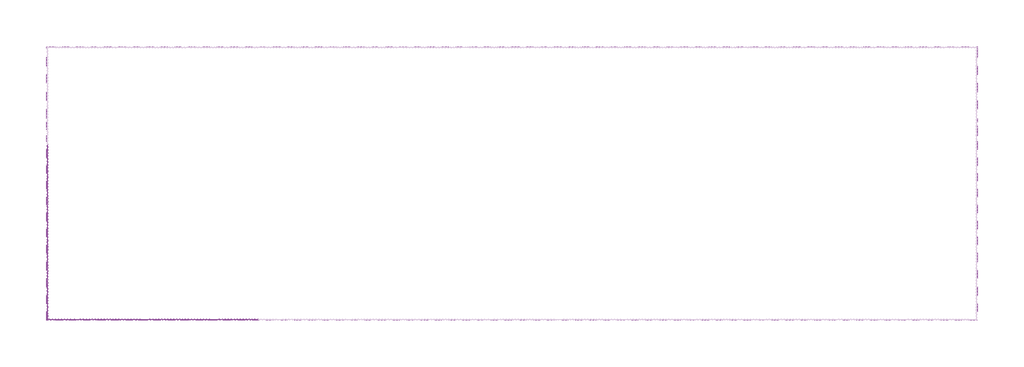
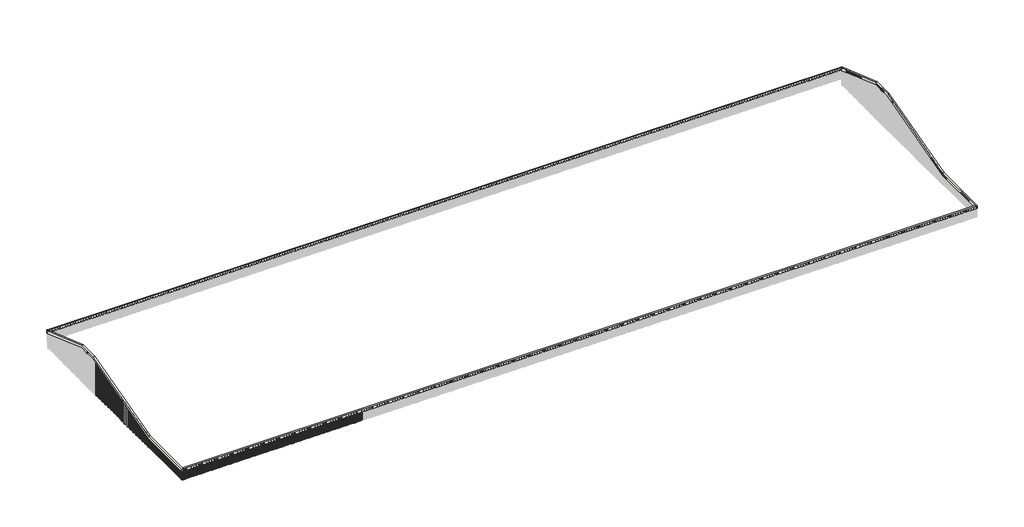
# One storey, part 1 of 6: 128 proxies, 1 slab.
"""IFC4 building model written with IfcOpenShell, lengths in millimetres."""

from ifc_helpers import new_model, si_unit, origin, place, context, project, spatial, transform, mapped, element, save
from components import generic_models_7553901d, generic_models_eddb28b0, generic_models_b851e550, generic_models_f981eec5, generic_models_fa2cd2e8, generic_models_5c6d3e61, generic_models_5d25678b, generic_models_d380ba2e, generic_models_831c492c, generic_models_77be9fe8, generic_models_16d24312, generic_models_3141a809, generic_models_ca3dce07, generic_models_dd665d03, generic_models_896a7e0f, generic_models_769bab11, generic_models_6a52f8d3, generic_models_cdec1266, generic_models_580ca2bd, slab_dfe32eb2

model = new_model("IFC4")

# Units and contexts
model_context = context("Model", 3, world=origin())
ifc_project = project(units=[si_unit("LENGTHUNIT", "METRE", prefix="MILLI")], contexts=[model_context])

# Site, building, storey
site = spatial("IfcSite", under=ifc_project)
building = spatial("IfcBuilding", under=site)
storey = spatial("IfcBuildingStorey", under=building, Name="矢板", Elevation=0.0)

# Proxies
placement = place(None, origin())
generic_models_shape = generic_models_7553901d(model_context)
element("IfcBuildingElementProxy", 1, Name="鋼矢板10H型 : 鋼矢板10H型", ObjectType="鋼矢板10H型 : 鋼矢板10H型", at=placement, inside=storey, context=model_context, shape_type="MappedRepresentation", body=[
    mapped(generic_models_shape, transform((-128208.0, -33049.0, 5850.0), x_axis=(0.0, 1.0, 0.0), y_axis=(-1.0, 0.0, 0.0), z_axis=(0.0, 0.0, 1.0))),
])
element("IfcBuildingElementProxy", 2, Name="鋼矢板10H型 : 鋼矢板10H型", ObjectType="鋼矢板10H型 : 鋼矢板10H型", at=placement, inside=storey, context=model_context, shape_type="MappedRepresentation", body=[
    mapped(generic_models_shape, transform((-128208.0, -33949.0, 5850.0), x_axis=(0.0, 1.0, 0.0), y_axis=(-1.0, 0.0, 0.0), z_axis=(0.0, 0.0, 1.0))),
])
element("IfcBuildingElementProxy", 3, Name="鋼矢板10H型 : 鋼矢板10H型", ObjectType="鋼矢板10H型 : 鋼矢板10H型", at=placement, inside=storey, context=model_context, shape_type="MappedRepresentation", body=[
    mapped(generic_models_shape, transform((-128208.0, -34849.0, 5850.0), x_axis=(0.0, 1.0, 0.0), y_axis=(-1.0, 0.0, 0.0), z_axis=(0.0, 0.0, 1.0))),
])
element("IfcBuildingElementProxy", 4, Name="鋼矢板10H型 : 鋼矢板10H型", ObjectType="鋼矢板10H型 : 鋼矢板10H型", at=placement, inside=storey, context=model_context, shape_type="MappedRepresentation", body=[
    mapped(generic_models_shape, transform((-128208.0, -35749.0, 5850.0), x_axis=(0.0, 1.0, 0.0), y_axis=(-1.0, 0.0, 0.0), z_axis=(0.0, 0.0, 1.0))),
])
element("IfcBuildingElementProxy", 5, Name="鋼矢板10H型 : 鋼矢板10H型", ObjectType="鋼矢板10H型 : 鋼矢板10H型", at=placement, inside=storey, context=model_context, shape_type="MappedRepresentation", body=[
    mapped(generic_models_shape, transform((-128208.0, -36649.0, 5850.0), x_axis=(0.0, 1.0, 0.0), y_axis=(-1.0, 0.0, 0.0), z_axis=(0.0, 0.0, 1.0))),
])
element("IfcBuildingElementProxy", 6, Name="鋼矢板10H型 : 鋼矢板10H型", ObjectType="鋼矢板10H型 : 鋼矢板10H型", at=placement, inside=storey, context=model_context, shape_type="MappedRepresentation", body=[
    mapped(generic_models_shape, transform((-128208.0, -37549.0, 5850.0), x_axis=(0.0, 1.0, 0.0), y_axis=(-1.0, 0.0, 0.0), z_axis=(0.0, 0.0, 1.0))),
])
element("IfcBuildingElementProxy", 7, Name="鋼矢板10H型 : 鋼矢板10H型", ObjectType="鋼矢板10H型 : 鋼矢板10H型", at=placement, inside=storey, context=model_context, shape_type="MappedRepresentation", body=[
    mapped(generic_models_shape, transform((-128208.0, -38449.0, 5850.0), x_axis=(0.0, 1.0, 0.0), y_axis=(-1.0, 0.0, 0.0), z_axis=(0.0, 0.0, 1.0))),
])
element("IfcBuildingElementProxy", 8, Name="鋼矢板10H型 : 鋼矢板10H型", ObjectType="鋼矢板10H型 : 鋼矢板10H型", at=placement, inside=storey, context=model_context, shape_type="MappedRepresentation", body=[
    mapped(generic_models_shape, transform((-128208.0, -39349.0, 5850.0), x_axis=(0.0, 1.0, 0.0), y_axis=(-1.0, 0.0, 0.0), z_axis=(0.0, 0.0, 1.0))),
])
element("IfcBuildingElementProxy", 9, Name="鋼矢板10H型 : 鋼矢板10H型", ObjectType="鋼矢板10H型 : 鋼矢板10H型", at=placement, inside=storey, context=model_context, shape_type="MappedRepresentation", body=[
    mapped(generic_models_shape, transform((-128208.0, -40249.0, 5850.0), x_axis=(0.0, 1.0, 0.0), y_axis=(-1.0, 0.0, 0.0), z_axis=(0.0, 0.0, 1.0))),
])
element("IfcBuildingElementProxy", 10, Name="鋼矢板10H型 : 鋼矢板10H型", ObjectType="鋼矢板10H型 : 鋼矢板10H型", at=placement, inside=storey, context=model_context, shape_type="MappedRepresentation", body=[
    mapped(generic_models_shape, transform((-128208.0, -41149.0, 5850.0), x_axis=(0.0, 1.0, 0.0), y_axis=(-1.0, 0.0, 0.0), z_axis=(0.0, 0.0, 1.0))),
])
element("IfcBuildingElementProxy", 11, Name="鋼矢板10H型 : 鋼矢板10H型", ObjectType="鋼矢板10H型 : 鋼矢板10H型", at=placement, inside=storey, context=model_context, shape_type="MappedRepresentation", body=[
    mapped(generic_models_shape, transform((-128208.0, -42049.0, 5850.0), x_axis=(0.0, 1.0, 0.0), y_axis=(-1.0, 0.0, 0.0), z_axis=(0.0, 0.0, 1.0))),
])
element("IfcBuildingElementProxy", 12, Name="鋼矢板10H型 : 鋼矢板10H型", ObjectType="鋼矢板10H型 : 鋼矢板10H型", at=placement, inside=storey, context=model_context, shape_type="MappedRepresentation", body=[
    mapped(generic_models_shape, transform((-128208.0, -42949.0, 5850.0), x_axis=(0.0, 1.0, 0.0), y_axis=(-1.0, 0.0, 0.0), z_axis=(0.0, 0.0, 1.0))),
])
element("IfcBuildingElementProxy", 13, Name="鋼矢板10H型 : 鋼矢板10H型", ObjectType="鋼矢板10H型 : 鋼矢板10H型", at=placement, inside=storey, context=model_context, shape_type="MappedRepresentation", body=[
    mapped(generic_models_shape, transform((-128208.0, -43849.0, 5850.0), x_axis=(0.0, 1.0, 0.0), y_axis=(-1.0, 0.0, 0.0), z_axis=(0.0, 0.0, 1.0))),
])
element("IfcBuildingElementProxy", 14, Name="鋼矢板10H型 : 鋼矢板10H型", ObjectType="鋼矢板10H型 : 鋼矢板10H型", at=placement, inside=storey, context=model_context, shape_type="MappedRepresentation", body=[
    mapped(generic_models_shape, transform((-128208.0, -44749.0, 5850.0), x_axis=(0.0, 1.0, 0.0), y_axis=(-1.0, 0.0, 0.0), z_axis=(0.0, 0.0, 1.0))),
])
element("IfcBuildingElementProxy", 15, Name="鋼矢板10H型 : 鋼矢板10H型", ObjectType="鋼矢板10H型 : 鋼矢板10H型", at=placement, inside=storey, context=model_context, shape_type="MappedRepresentation", body=[
    mapped(generic_models_shape, transform((-128208.0, -45649.0, 5850.0), x_axis=(0.0, 1.0, 0.0), y_axis=(-1.0, 0.0, 0.0), z_axis=(0.0, 0.0, 1.0))),
])
element("IfcBuildingElementProxy", 16, Name="鋼矢板10H型 : 鋼矢板10H型", ObjectType="鋼矢板10H型 : 鋼矢板10H型", at=placement, inside=storey, context=model_context, shape_type="MappedRepresentation", body=[
    mapped(generic_models_shape, transform((-128208.0, -46549.0, 5850.0), x_axis=(0.0, 1.0, 0.0), y_axis=(-1.0, 0.0, 0.0), z_axis=(0.0, 0.0, 1.0))),
])
element("IfcBuildingElementProxy", 17, Name="鋼矢板10H型 : 鋼矢板10H型", ObjectType="鋼矢板10H型 : 鋼矢板10H型", at=placement, inside=storey, context=model_context, shape_type="MappedRepresentation", body=[
    mapped(generic_models_shape, transform((-128208.0, -47449.0, 5850.0), x_axis=(0.0, 1.0, 0.0), y_axis=(-1.0, 0.0, 0.0), z_axis=(0.0, 0.0, 1.0))),
])
element("IfcBuildingElementProxy", 18, Name="鋼矢板10H型 : 鋼矢板10H型", ObjectType="鋼矢板10H型 : 鋼矢板10H型", at=placement, inside=storey, context=model_context, shape_type="MappedRepresentation", body=[
    mapped(generic_models_shape, transform((-128208.0, -48349.0, 5850.0), x_axis=(0.0, 1.0, 0.0), y_axis=(-1.0, 0.0, 0.0), z_axis=(0.0, 0.0, 1.0))),
])
element("IfcBuildingElementProxy", 19, Name="鋼矢板10H型 : 鋼矢板10H型", ObjectType="鋼矢板10H型 : 鋼矢板10H型", at=placement, inside=storey, context=model_context, shape_type="MappedRepresentation", body=[
    mapped(generic_models_shape, transform((-128208.0, -49249.0, 5850.0), x_axis=(0.0, 1.0, 0.0), y_axis=(-1.0, 0.0, 0.0), z_axis=(0.0, 0.0, 1.0))),
])
element("IfcBuildingElementProxy", 20, Name="鋼矢板10H型 : 鋼矢板10H型", ObjectType="鋼矢板10H型 : 鋼矢板10H型", at=placement, inside=storey, context=model_context, shape_type="MappedRepresentation", body=[
    mapped(generic_models_shape, transform((-128208.0, -50149.0, 5850.0), x_axis=(0.0, 1.0, 0.0), y_axis=(-1.0, 0.0, 0.0), z_axis=(0.0, 0.0, 1.0))),
])
element("IfcBuildingElementProxy", 21, Name="鋼矢板10H型 : 鋼矢板10H型", ObjectType="鋼矢板10H型 : 鋼矢板10H型", at=placement, inside=storey, context=model_context, shape_type="MappedRepresentation", body=[
    mapped(generic_models_shape, transform((-128208.0, -51049.0, 5850.0), x_axis=(0.0, 1.0, 0.0), y_axis=(-1.0, 0.0, 0.0), z_axis=(0.0, 0.0, 1.0))),
])
element("IfcBuildingElementProxy", 22, Name="鋼矢板10H型 : 鋼矢板10H型", ObjectType="鋼矢板10H型 : 鋼矢板10H型", at=placement, inside=storey, context=model_context, shape_type="MappedRepresentation", body=[
    mapped(generic_models_shape, transform((-128208.0, -51949.0, 5850.0), x_axis=(0.0, 1.0, 0.0), y_axis=(-1.0, 0.0, 0.0), z_axis=(0.0, 0.0, 1.0))),
])
element("IfcBuildingElementProxy", 23, Name="鋼矢板10H型 : 鋼矢板10H型", ObjectType="鋼矢板10H型 : 鋼矢板10H型", at=placement, inside=storey, context=model_context, shape_type="MappedRepresentation", body=[
    mapped(generic_models_shape, transform((-65897.5, -52500.0, 5850.0), x_axis=(-1.0, 0.0, 0.0), y_axis=(0.0, -1.0, 0.0), z_axis=(0.0, 0.0, 1.0))),
])
element("IfcBuildingElementProxy", 24, Name="鋼矢板10H型 : 鋼矢板10H型", ObjectType="鋼矢板10H型 : 鋼矢板10H型", at=placement, inside=storey, context=model_context, shape_type="MappedRepresentation", body=[
    mapped(generic_models_shape, transform((-66797.5, -52500.0, 5850.0), x_axis=(-1.0, 0.0, 0.0), y_axis=(0.0, -1.0, 0.0), z_axis=(0.0, 0.0, 1.0))),
])
element("IfcBuildingElementProxy", 25, Name="鋼矢板10H型 : 鋼矢板10H型", ObjectType="鋼矢板10H型 : 鋼矢板10H型", at=placement, inside=storey, context=model_context, shape_type="MappedRepresentation", body=[
    mapped(generic_models_shape, transform((-67697.5, -52500.0, 5850.0), x_axis=(-1.0, 0.0, 0.0), y_axis=(0.0, -1.0, 0.0), z_axis=(0.0, 0.0, 1.0))),
])
element("IfcBuildingElementProxy", 26, Name="鋼矢板10H型 : 鋼矢板10H型", ObjectType="鋼矢板10H型 : 鋼矢板10H型", at=placement, inside=storey, context=model_context, shape_type="MappedRepresentation", body=[
    mapped(generic_models_shape, transform((-68597.5, -52500.0, 5850.0), x_axis=(-1.0, 0.0, 0.0), y_axis=(0.0, -1.0, 0.0), z_axis=(0.0, 0.0, 1.0))),
])
element("IfcBuildingElementProxy", 27, Name="鋼矢板10H型 : 鋼矢板10H型", ObjectType="鋼矢板10H型 : 鋼矢板10H型", at=placement, inside=storey, context=model_context, shape_type="MappedRepresentation", body=[
    mapped(generic_models_shape, transform((-69497.5, -52500.0, 5850.0), x_axis=(-1.0, 0.0, 0.0), y_axis=(0.0, -1.0, 0.0), z_axis=(0.0, 0.0, 1.0))),
])
element("IfcBuildingElementProxy", 28, Name="鋼矢板10H型 : 鋼矢板10H型", ObjectType="鋼矢板10H型 : 鋼矢板10H型", at=placement, inside=storey, context=model_context, shape_type="MappedRepresentation", body=[
    mapped(generic_models_shape, transform((-70397.5, -52500.0, 5850.0), x_axis=(-1.0, 0.0, 0.0), y_axis=(0.0, -1.0, 0.0), z_axis=(0.0, 0.0, 1.0))),
])
element("IfcBuildingElementProxy", 29, Name="鋼矢板10H型 : 鋼矢板10H型", ObjectType="鋼矢板10H型 : 鋼矢板10H型", at=placement, inside=storey, context=model_context, shape_type="MappedRepresentation", body=[
    mapped(generic_models_shape, transform((-71297.5, -52500.0, 5850.0), x_axis=(-1.0, 0.0, 0.0), y_axis=(0.0, -1.0, 0.0), z_axis=(0.0, 0.0, 1.0))),
])
element("IfcBuildingElementProxy", 30, Name="鋼矢板10H型 : 鋼矢板10H型", ObjectType="鋼矢板10H型 : 鋼矢板10H型", at=placement, inside=storey, context=model_context, shape_type="MappedRepresentation", body=[
    mapped(generic_models_shape, transform((-72197.5, -52500.0, 5850.0), x_axis=(-1.0, 0.0, 0.0), y_axis=(0.0, -1.0, 0.0), z_axis=(0.0, 0.0, 1.0))),
])
element("IfcBuildingElementProxy", 31, Name="鋼矢板10H型 : 鋼矢板10H型", ObjectType="鋼矢板10H型 : 鋼矢板10H型", at=placement, inside=storey, context=model_context, shape_type="MappedRepresentation", body=[
    mapped(generic_models_shape, transform((-73097.5, -52500.0, 5850.0), x_axis=(-1.0, 0.0, 0.0), y_axis=(0.0, -1.0, 0.0), z_axis=(0.0, 0.0, 1.0))),
])
element("IfcBuildingElementProxy", 32, Name="鋼矢板10H型 : 鋼矢板10H型", ObjectType="鋼矢板10H型 : 鋼矢板10H型", at=placement, inside=storey, context=model_context, shape_type="MappedRepresentation", body=[
    mapped(generic_models_shape, transform((-73997.5, -52500.0, 5850.0), x_axis=(-1.0, 0.0, 0.0), y_axis=(0.0, -1.0, 0.0), z_axis=(0.0, 0.0, 1.0))),
])
element("IfcBuildingElementProxy", 33, Name="鋼矢板10H型 : 鋼矢板10H型", ObjectType="鋼矢板10H型 : 鋼矢板10H型", at=placement, inside=storey, context=model_context, shape_type="MappedRepresentation", body=[
    mapped(generic_models_shape, transform((-74897.5, -52500.0, 5850.0), x_axis=(-1.0, 0.0, 0.0), y_axis=(0.0, -1.0, 0.0), z_axis=(0.0, 0.0, 1.0))),
])
element("IfcBuildingElementProxy", 34, Name="鋼矢板10H型 : 鋼矢板10H型", ObjectType="鋼矢板10H型 : 鋼矢板10H型", at=placement, inside=storey, context=model_context, shape_type="MappedRepresentation", body=[
    mapped(generic_models_shape, transform((-75797.5, -52500.0, 5850.0), x_axis=(-1.0, 0.0, 0.0), y_axis=(0.0, -1.0, 0.0), z_axis=(0.0, 0.0, 1.0))),
])
element("IfcBuildingElementProxy", 35, Name="鋼矢板10H型 : 鋼矢板10H型", ObjectType="鋼矢板10H型 : 鋼矢板10H型", at=placement, inside=storey, context=model_context, shape_type="MappedRepresentation", body=[
    mapped(generic_models_shape, transform((-76697.5, -52500.0, 5850.0), x_axis=(-1.0, 0.0, 0.0), y_axis=(0.0, -1.0, 0.0), z_axis=(0.0, 0.0, 1.0))),
])
element("IfcBuildingElementProxy", 36, Name="鋼矢板10H型 : 鋼矢板10H型", ObjectType="鋼矢板10H型 : 鋼矢板10H型", at=placement, inside=storey, context=model_context, shape_type="MappedRepresentation", body=[
    mapped(generic_models_shape, transform((-77597.5, -52500.0, 5850.0), x_axis=(-1.0, 0.0, 0.0), y_axis=(0.0, -1.0, 0.0), z_axis=(0.0, 0.0, 1.0))),
])
element("IfcBuildingElementProxy", 37, Name="鋼矢板10H型 : 鋼矢板10H型", ObjectType="鋼矢板10H型 : 鋼矢板10H型", at=placement, inside=storey, context=model_context, shape_type="MappedRepresentation", body=[
    mapped(generic_models_shape, transform((-78497.5, -52500.0, 5850.0), x_axis=(-1.0, 0.0, 0.0), y_axis=(0.0, -1.0, 0.0), z_axis=(0.0, 0.0, 1.0))),
])
element("IfcBuildingElementProxy", 38, Name="鋼矢板10H型 : 鋼矢板10H型", ObjectType="鋼矢板10H型 : 鋼矢板10H型", at=placement, inside=storey, context=model_context, shape_type="MappedRepresentation", body=[
    mapped(generic_models_shape, transform((-79397.5, -52500.0, 5850.0), x_axis=(-1.0, 0.0, 0.0), y_axis=(0.0, -1.0, 0.0), z_axis=(0.0, 0.0, 1.0))),
])
element("IfcBuildingElementProxy", 39, Name="鋼矢板10H型 : 鋼矢板10H型", ObjectType="鋼矢板10H型 : 鋼矢板10H型", at=placement, inside=storey, context=model_context, shape_type="MappedRepresentation", body=[
    mapped(generic_models_shape, transform((-80297.5, -52500.0, 5850.0), x_axis=(-1.0, 0.0, 0.0), y_axis=(0.0, -1.0, 0.0), z_axis=(0.0, 0.0, 1.0))),
])
element("IfcBuildingElementProxy", 40, Name="鋼矢板10H型 : 鋼矢板10H型", ObjectType="鋼矢板10H型 : 鋼矢板10H型", at=placement, inside=storey, context=model_context, shape_type="MappedRepresentation", body=[
    mapped(generic_models_shape, transform((-81197.5, -52500.0, 5850.0), x_axis=(-1.0, 0.0, 0.0), y_axis=(0.0, -1.0, 0.0), z_axis=(0.0, 0.0, 1.0))),
])
element("IfcBuildingElementProxy", 41, Name="鋼矢板10H型 : 鋼矢板10H型", ObjectType="鋼矢板10H型 : 鋼矢板10H型", at=placement, inside=storey, context=model_context, shape_type="MappedRepresentation", body=[
    mapped(generic_models_shape, transform((-82097.5, -52500.0, 5850.0), x_axis=(-1.0, 0.0, 0.0), y_axis=(0.0, -1.0, 0.0), z_axis=(0.0, 0.0, 1.0))),
])
element("IfcBuildingElementProxy", 42, Name="鋼矢板10H型 : 鋼矢板10H型", ObjectType="鋼矢板10H型 : 鋼矢板10H型", at=placement, inside=storey, context=model_context, shape_type="MappedRepresentation", body=[
    mapped(generic_models_shape, transform((-82997.5, -52500.0, 5850.0), x_axis=(-1.0, 0.0, 0.0), y_axis=(0.0, -1.0, 0.0), z_axis=(0.0, 0.0, 1.0))),
])
element("IfcBuildingElementProxy", 43, Name="鋼矢板10H型 : 鋼矢板10H型", ObjectType="鋼矢板10H型 : 鋼矢板10H型", at=placement, inside=storey, context=model_context, shape_type="MappedRepresentation", body=[
    mapped(generic_models_shape, transform((-83897.5, -52500.0, 5850.0), x_axis=(-1.0, 0.0, 0.0), y_axis=(0.0, -1.0, 0.0), z_axis=(0.0, 0.0, 1.0))),
])
element("IfcBuildingElementProxy", 44, Name="鋼矢板10H型 : 鋼矢板10H型", ObjectType="鋼矢板10H型 : 鋼矢板10H型", at=placement, inside=storey, context=model_context, shape_type="MappedRepresentation", body=[
    mapped(generic_models_shape, transform((-84797.5, -52500.0, 5850.0), x_axis=(-1.0, 0.0, 0.0), y_axis=(0.0, -1.0, 0.0), z_axis=(0.0, 0.0, 1.0))),
])
element("IfcBuildingElementProxy", 45, Name="鋼矢板10H型 : 鋼矢板10H型", ObjectType="鋼矢板10H型 : 鋼矢板10H型", at=placement, inside=storey, context=model_context, shape_type="MappedRepresentation", body=[
    mapped(generic_models_shape, transform((-85697.5, -52500.0, 5850.0), x_axis=(-1.0, 0.0, 0.0), y_axis=(0.0, -1.0, 0.0), z_axis=(0.0, 0.0, 1.0))),
])
element("IfcBuildingElementProxy", 46, Name="鋼矢板10H型 : 鋼矢板10H型", ObjectType="鋼矢板10H型 : 鋼矢板10H型", at=placement, inside=storey, context=model_context, shape_type="MappedRepresentation", body=[
    mapped(generic_models_shape, transform((-86597.5, -52500.0, 5850.0), x_axis=(-1.0, 0.0, 0.0), y_axis=(0.0, -1.0, 0.0), z_axis=(0.0, 0.0, 1.0))),
])
element("IfcBuildingElementProxy", 47, Name="鋼矢板10H型 : 鋼矢板10H型", ObjectType="鋼矢板10H型 : 鋼矢板10H型", at=placement, inside=storey, context=model_context, shape_type="MappedRepresentation", body=[
    mapped(generic_models_shape, transform((-87497.5, -52500.0, 5850.0), x_axis=(-1.0, 0.0, 0.0), y_axis=(0.0, -1.0, 0.0), z_axis=(0.0, 0.0, 1.0))),
])
element("IfcBuildingElementProxy", 48, Name="鋼矢板10H型 : 鋼矢板10H型", ObjectType="鋼矢板10H型 : 鋼矢板10H型", at=placement, inside=storey, context=model_context, shape_type="MappedRepresentation", body=[
    mapped(generic_models_shape, transform((-88397.5, -52500.0, 5850.0), x_axis=(-1.0, 0.0, 0.0), y_axis=(0.0, -1.0, 0.0), z_axis=(0.0, 0.0, 1.0))),
])
element("IfcBuildingElementProxy", 49, Name="鋼矢板10H型 : 鋼矢板10H型", ObjectType="鋼矢板10H型 : 鋼矢板10H型", at=placement, inside=storey, context=model_context, shape_type="MappedRepresentation", body=[
    mapped(generic_models_shape, transform((-89297.5, -52500.0, 5850.0), x_axis=(-1.0, 0.0, 0.0), y_axis=(0.0, -1.0, 0.0), z_axis=(0.0, 0.0, 1.0))),
])
element("IfcBuildingElementProxy", 50, Name="鋼矢板10H型 : 鋼矢板10H型", ObjectType="鋼矢板10H型 : 鋼矢板10H型", at=placement, inside=storey, context=model_context, shape_type="MappedRepresentation", body=[
    mapped(generic_models_shape, transform((-90197.5, -52500.0, 5850.0), x_axis=(-1.0, 0.0, 0.0), y_axis=(0.0, -1.0, 0.0), z_axis=(0.0, 0.0, 1.0))),
])
element("IfcBuildingElementProxy", 51, Name="鋼矢板10H型 : 鋼矢板10H型", ObjectType="鋼矢板10H型 : 鋼矢板10H型", at=placement, inside=storey, context=model_context, shape_type="MappedRepresentation", body=[
    mapped(generic_models_shape, transform((-91097.5, -52500.0, 5850.0), x_axis=(-1.0, 0.0, 0.0), y_axis=(0.0, -1.0, 0.0), z_axis=(0.0, 0.0, 1.0))),
])
element("IfcBuildingElementProxy", 52, Name="鋼矢板10H型 : 鋼矢板10H型", ObjectType="鋼矢板10H型 : 鋼矢板10H型", at=placement, inside=storey, context=model_context, shape_type="MappedRepresentation", body=[
    mapped(generic_models_shape, transform((-91997.5, -52500.0, 5850.0), x_axis=(-1.0, 0.0, 0.0), y_axis=(0.0, -1.0, 0.0), z_axis=(0.0, 0.0, 1.0))),
])
element("IfcBuildingElementProxy", 53, Name="鋼矢板10H型 : 鋼矢板10H型", ObjectType="鋼矢板10H型 : 鋼矢板10H型", at=placement, inside=storey, context=model_context, shape_type="MappedRepresentation", body=[
    mapped(generic_models_shape, transform((-92897.5, -52500.0, 5850.0), x_axis=(-1.0, 0.0, 0.0), y_axis=(0.0, -1.0, 0.0), z_axis=(0.0, 0.0, 1.0))),
])
element("IfcBuildingElementProxy", 54, Name="鋼矢板10H型 : 鋼矢板10H型", ObjectType="鋼矢板10H型 : 鋼矢板10H型", at=placement, inside=storey, context=model_context, shape_type="MappedRepresentation", body=[
    mapped(generic_models_shape, transform((-93797.5, -52500.0, 5850.0), x_axis=(-1.0, 0.0, 0.0), y_axis=(0.0, -1.0, 0.0), z_axis=(0.0, 0.0, 1.0))),
])
element("IfcBuildingElementProxy", 55, Name="鋼矢板10H型 : 鋼矢板10H型", ObjectType="鋼矢板10H型 : 鋼矢板10H型", at=placement, inside=storey, context=model_context, shape_type="MappedRepresentation", body=[
    mapped(generic_models_shape, transform((-94697.5, -52500.0, 5850.0), x_axis=(-1.0, 0.0, 0.0), y_axis=(0.0, -1.0, 0.0), z_axis=(0.0, 0.0, 1.0))),
])
element("IfcBuildingElementProxy", 56, Name="鋼矢板10H型 : 鋼矢板10H型", ObjectType="鋼矢板10H型 : 鋼矢板10H型", at=placement, inside=storey, context=model_context, shape_type="MappedRepresentation", body=[
    mapped(generic_models_shape, transform((-95597.5, -52500.0, 5850.0), x_axis=(-1.0, 0.0, 0.0), y_axis=(0.0, -1.0, 0.0), z_axis=(0.0, 0.0, 1.0))),
])
element("IfcBuildingElementProxy", 57, Name="鋼矢板10H型 : 鋼矢板10H型", ObjectType="鋼矢板10H型 : 鋼矢板10H型", at=placement, inside=storey, context=model_context, shape_type="MappedRepresentation", body=[
    mapped(generic_models_shape, transform((-96497.5, -52500.0, 5850.0), x_axis=(-1.0, 0.0, 0.0), y_axis=(0.0, -1.0, 0.0), z_axis=(0.0, 0.0, 1.0))),
])
element("IfcBuildingElementProxy", 58, Name="鋼矢板10H型 : 鋼矢板10H型", ObjectType="鋼矢板10H型 : 鋼矢板10H型", at=placement, inside=storey, context=model_context, shape_type="MappedRepresentation", body=[
    mapped(generic_models_shape, transform((-97397.5, -52500.0, 5850.0), x_axis=(-1.0, 0.0, 0.0), y_axis=(0.0, -1.0, 0.0), z_axis=(0.0, 0.0, 1.0))),
])
element("IfcBuildingElementProxy", 59, Name="鋼矢板10H型 : 鋼矢板10H型", ObjectType="鋼矢板10H型 : 鋼矢板10H型", at=placement, inside=storey, context=model_context, shape_type="MappedRepresentation", body=[
    mapped(generic_models_shape, transform((-98297.5, -52500.0, 5850.0), x_axis=(-1.0, 0.0, 0.0), y_axis=(0.0, -1.0, 0.0), z_axis=(0.0, 0.0, 1.0))),
])
element("IfcBuildingElementProxy", 60, Name="鋼矢板10H型 : 鋼矢板10H型", ObjectType="鋼矢板10H型 : 鋼矢板10H型", at=placement, inside=storey, context=model_context, shape_type="MappedRepresentation", body=[
    mapped(generic_models_shape, transform((-99197.5, -52500.0, 5850.0), x_axis=(-1.0, 0.0, 0.0), y_axis=(0.0, -1.0, 0.0), z_axis=(0.0, 0.0, 1.0))),
])
element("IfcBuildingElementProxy", 61, Name="鋼矢板10H型 : 鋼矢板10H型", ObjectType="鋼矢板10H型 : 鋼矢板10H型", at=placement, inside=storey, context=model_context, shape_type="MappedRepresentation", body=[
    mapped(generic_models_shape, transform((-100097.5, -52500.0, 5850.0), x_axis=(-1.0, 0.0, 0.0), y_axis=(0.0, -1.0, 0.0), z_axis=(0.0, 0.0, 1.0))),
])
element("IfcBuildingElementProxy", 62, Name="鋼矢板10H型 : 鋼矢板10H型", ObjectType="鋼矢板10H型 : 鋼矢板10H型", at=placement, inside=storey, context=model_context, shape_type="MappedRepresentation", body=[
    mapped(generic_models_shape, transform((-100997.5, -52500.0, 5850.0), x_axis=(-1.0, 0.0, 0.0), y_axis=(0.0, -1.0, 0.0), z_axis=(0.0, 0.0, 1.0))),
])
element("IfcBuildingElementProxy", 63, Name="鋼矢板10H型 : 鋼矢板10H型", ObjectType="鋼矢板10H型 : 鋼矢板10H型", at=placement, inside=storey, context=model_context, shape_type="MappedRepresentation", body=[
    mapped(generic_models_shape, transform((-101897.5, -52500.0, 5850.0), x_axis=(-1.0, 0.0, 0.0), y_axis=(0.0, -1.0, 0.0), z_axis=(0.0, 0.0, 1.0))),
])
element("IfcBuildingElementProxy", 64, Name="鋼矢板10H型 : 鋼矢板10H型", ObjectType="鋼矢板10H型 : 鋼矢板10H型", at=placement, inside=storey, context=model_context, shape_type="MappedRepresentation", body=[
    mapped(generic_models_shape, transform((-102797.5, -52500.0, 5850.0), x_axis=(-1.0, 0.0, 0.0), y_axis=(0.0, -1.0, 0.0), z_axis=(0.0, 0.0, 1.0))),
])
element("IfcBuildingElementProxy", 65, Name="鋼矢板10H型 : 鋼矢板10H型", ObjectType="鋼矢板10H型 : 鋼矢板10H型", at=placement, inside=storey, context=model_context, shape_type="MappedRepresentation", body=[
    mapped(generic_models_shape, transform((-103697.5, -52500.0, 5850.0), x_axis=(-1.0, 0.0, 0.0), y_axis=(0.0, -1.0, 0.0), z_axis=(0.0, 0.0, 1.0))),
])
element("IfcBuildingElementProxy", 66, Name="鋼矢板10H型 : 鋼矢板10H型", ObjectType="鋼矢板10H型 : 鋼矢板10H型", at=placement, inside=storey, context=model_context, shape_type="MappedRepresentation", body=[
    mapped(generic_models_shape, transform((-104597.5, -52500.0, 5850.0), x_axis=(-1.0, 0.0, 0.0), y_axis=(0.0, -1.0, 0.0), z_axis=(0.0, 0.0, 1.0))),
])
element("IfcBuildingElementProxy", 67, Name="鋼矢板10H型 : 鋼矢板10H型", ObjectType="鋼矢板10H型 : 鋼矢板10H型", at=placement, inside=storey, context=model_context, shape_type="MappedRepresentation", body=[
    mapped(generic_models_shape, transform((-105497.5, -52500.0, 5850.0), x_axis=(-1.0, 0.0, 0.0), y_axis=(0.0, -1.0, 0.0), z_axis=(0.0, 0.0, 1.0))),
])
element("IfcBuildingElementProxy", 68, Name="鋼矢板10H型 : 鋼矢板10H型", ObjectType="鋼矢板10H型 : 鋼矢板10H型", at=placement, inside=storey, context=model_context, shape_type="MappedRepresentation", body=[
    mapped(generic_models_shape, transform((-106397.5, -52500.0, 5850.0), x_axis=(-1.0, 0.0, 0.0), y_axis=(0.0, -1.0, 0.0), z_axis=(0.0, 0.0, 1.0))),
])
element("IfcBuildingElementProxy", 69, Name="鋼矢板10H型 : 鋼矢板10H型", ObjectType="鋼矢板10H型 : 鋼矢板10H型", at=placement, inside=storey, context=model_context, shape_type="MappedRepresentation", body=[
    mapped(generic_models_shape, transform((-107297.5, -52500.0, 5850.0), x_axis=(-1.0, 0.0, 0.0), y_axis=(0.0, -1.0, 0.0), z_axis=(0.0, 0.0, 1.0))),
])
element("IfcBuildingElementProxy", 70, Name="鋼矢板10H型 : 鋼矢板10H型", ObjectType="鋼矢板10H型 : 鋼矢板10H型", at=placement, inside=storey, context=model_context, shape_type="MappedRepresentation", body=[
    mapped(generic_models_shape, transform((-108197.5, -52500.0, 5850.0), x_axis=(-1.0, 0.0, 0.0), y_axis=(0.0, -1.0, 0.0), z_axis=(0.0, 0.0, 1.0))),
])
element("IfcBuildingElementProxy", 71, Name="鋼矢板10H型 : 鋼矢板10H型", ObjectType="鋼矢板10H型 : 鋼矢板10H型", at=placement, inside=storey, context=model_context, shape_type="MappedRepresentation", body=[
    mapped(generic_models_shape, transform((-109097.5, -52500.0, 5850.0), x_axis=(-1.0, 0.0, 0.0), y_axis=(0.0, -1.0, 0.0), z_axis=(0.0, 0.0, 1.0))),
])
element("IfcBuildingElementProxy", 72, Name="鋼矢板10H型 : 鋼矢板10H型", ObjectType="鋼矢板10H型 : 鋼矢板10H型", at=placement, inside=storey, context=model_context, shape_type="MappedRepresentation", body=[
    mapped(generic_models_shape, transform((-109997.5, -52500.0, 5850.0), x_axis=(-1.0, 0.0, 0.0), y_axis=(0.0, -1.0, 0.0), z_axis=(0.0, 0.0, 1.0))),
])
element("IfcBuildingElementProxy", 73, Name="鋼矢板10H型 : 鋼矢板10H型", ObjectType="鋼矢板10H型 : 鋼矢板10H型", at=placement, inside=storey, context=model_context, shape_type="MappedRepresentation", body=[
    mapped(generic_models_shape, transform((-110897.5, -52500.0, 5850.0), x_axis=(-1.0, 0.0, 0.0), y_axis=(0.0, -1.0, 0.0), z_axis=(0.0, 0.0, 1.0))),
])
element("IfcBuildingElementProxy", 74, Name="鋼矢板10H型 : 鋼矢板10H型", ObjectType="鋼矢板10H型 : 鋼矢板10H型", at=placement, inside=storey, context=model_context, shape_type="MappedRepresentation", body=[
    mapped(generic_models_shape, transform((-111797.5, -52500.0, 5850.0), x_axis=(-1.0, 0.0, 0.0), y_axis=(0.0, -1.0, 0.0), z_axis=(0.0, 0.0, 1.0))),
])
element("IfcBuildingElementProxy", 75, Name="鋼矢板10H型 : 鋼矢板10H型", ObjectType="鋼矢板10H型 : 鋼矢板10H型", at=placement, inside=storey, context=model_context, shape_type="MappedRepresentation", body=[
    mapped(generic_models_shape, transform((-112697.5, -52500.0, 5850.0), x_axis=(-1.0, 0.0, 0.0), y_axis=(0.0, -1.0, 0.0), z_axis=(0.0, 0.0, 1.0))),
])
element("IfcBuildingElementProxy", 76, Name="鋼矢板10H型 : 鋼矢板10H型", ObjectType="鋼矢板10H型 : 鋼矢板10H型", at=placement, inside=storey, context=model_context, shape_type="MappedRepresentation", body=[
    mapped(generic_models_shape, transform((-113597.5, -52500.0, 5850.0), x_axis=(-1.0, 0.0, 0.0), y_axis=(0.0, -1.0, 0.0), z_axis=(0.0, 0.0, 1.0))),
])
element("IfcBuildingElementProxy", 77, Name="鋼矢板10H型 : 鋼矢板10H型", ObjectType="鋼矢板10H型 : 鋼矢板10H型", at=placement, inside=storey, context=model_context, shape_type="MappedRepresentation", body=[
    mapped(generic_models_shape, transform((-114497.5, -52500.0, 5850.0), x_axis=(-1.0, 0.0, 0.0), y_axis=(0.0, -1.0, 0.0), z_axis=(0.0, 0.0, 1.0))),
])
element("IfcBuildingElementProxy", 78, Name="鋼矢板10H型 : 鋼矢板10H型", ObjectType="鋼矢板10H型 : 鋼矢板10H型", at=placement, inside=storey, context=model_context, shape_type="MappedRepresentation", body=[
    mapped(generic_models_shape, transform((-115397.5, -52500.0, 5850.0), x_axis=(-1.0, 0.0, 0.0), y_axis=(0.0, -1.0, 0.0), z_axis=(0.0, 0.0, 1.0))),
])
element("IfcBuildingElementProxy", 79, Name="鋼矢板10H型 : 鋼矢板10H型", ObjectType="鋼矢板10H型 : 鋼矢板10H型", at=placement, inside=storey, context=model_context, shape_type="MappedRepresentation", body=[
    mapped(generic_models_shape, transform((-116297.5, -52500.0, 5850.0), x_axis=(-1.0, 0.0, 0.0), y_axis=(0.0, -1.0, 0.0), z_axis=(0.0, 0.0, 1.0))),
])
element("IfcBuildingElementProxy", 80, Name="鋼矢板10H型 : 鋼矢板10H型", ObjectType="鋼矢板10H型 : 鋼矢板10H型", at=placement, inside=storey, context=model_context, shape_type="MappedRepresentation", body=[
    mapped(generic_models_shape, transform((-117197.5, -52500.0, 5850.0), x_axis=(-1.0, 0.0, 0.0), y_axis=(0.0, -1.0, 0.0), z_axis=(0.0, 0.0, 1.0))),
])
element("IfcBuildingElementProxy", 81, Name="鋼矢板10H型 : 鋼矢板10H型", ObjectType="鋼矢板10H型 : 鋼矢板10H型", at=placement, inside=storey, context=model_context, shape_type="MappedRepresentation", body=[
    mapped(generic_models_shape, transform((-118097.5, -52500.0, 5850.0), x_axis=(-1.0, 0.0, 0.0), y_axis=(0.0, -1.0, 0.0), z_axis=(0.0, 0.0, 1.0))),
])
element("IfcBuildingElementProxy", 82, Name="鋼矢板10H型 : 鋼矢板10H型", ObjectType="鋼矢板10H型 : 鋼矢板10H型", at=placement, inside=storey, context=model_context, shape_type="MappedRepresentation", body=[
    mapped(generic_models_shape, transform((-118997.5, -52500.0, 5850.0), x_axis=(-1.0, 0.0, 0.0), y_axis=(0.0, -1.0, 0.0), z_axis=(0.0, 0.0, 1.0))),
])
element("IfcBuildingElementProxy", 83, Name="鋼矢板10H型 : 鋼矢板10H型", ObjectType="鋼矢板10H型 : 鋼矢板10H型", at=placement, inside=storey, context=model_context, shape_type="MappedRepresentation", body=[
    mapped(generic_models_shape, transform((-119897.5, -52500.0, 5850.0), x_axis=(-1.0, 0.0, 0.0), y_axis=(0.0, -1.0, 0.0), z_axis=(0.0, 0.0, 1.0))),
])
element("IfcBuildingElementProxy", 84, Name="鋼矢板10H型 : 鋼矢板10H型", ObjectType="鋼矢板10H型 : 鋼矢板10H型", at=placement, inside=storey, context=model_context, shape_type="MappedRepresentation", body=[
    mapped(generic_models_shape, transform((-120797.5, -52500.0, 5850.0), x_axis=(-1.0, 0.0, 0.0), y_axis=(0.0, -1.0, 0.0), z_axis=(0.0, 0.0, 1.0))),
])
element("IfcBuildingElementProxy", 85, Name="鋼矢板10H型 : 鋼矢板10H型", ObjectType="鋼矢板10H型 : 鋼矢板10H型", at=placement, inside=storey, context=model_context, shape_type="MappedRepresentation", body=[
    mapped(generic_models_shape, transform((-121697.5, -52500.0, 5850.0), x_axis=(-1.0, 0.0, 0.0), y_axis=(0.0, -1.0, 0.0), z_axis=(0.0, 0.0, 1.0))),
])
element("IfcBuildingElementProxy", 86, Name="鋼矢板10H型 : 鋼矢板10H型", ObjectType="鋼矢板10H型 : 鋼矢板10H型", at=placement, inside=storey, context=model_context, shape_type="MappedRepresentation", body=[
    mapped(generic_models_shape, transform((-122597.5, -52500.0, 5850.0), x_axis=(-1.0, 0.0, 0.0), y_axis=(0.0, -1.0, 0.0), z_axis=(0.0, 0.0, 1.0))),
])
element("IfcBuildingElementProxy", 87, Name="鋼矢板10H型 : 鋼矢板10H型", ObjectType="鋼矢板10H型 : 鋼矢板10H型", at=placement, inside=storey, context=model_context, shape_type="MappedRepresentation", body=[
    mapped(generic_models_shape, transform((-123497.5, -52500.0, 5850.0), x_axis=(-1.0, 0.0, 0.0), y_axis=(0.0, -1.0, 0.0), z_axis=(0.0, 0.0, 1.0))),
])
element("IfcBuildingElementProxy", 88, Name="鋼矢板10H型 : 鋼矢板10H型", ObjectType="鋼矢板10H型 : 鋼矢板10H型", at=placement, inside=storey, context=model_context, shape_type="MappedRepresentation", body=[
    mapped(generic_models_shape, transform((-124397.5, -52500.0, 5850.0), x_axis=(-1.0, 0.0, 0.0), y_axis=(0.0, -1.0, 0.0), z_axis=(0.0, 0.0, 1.0))),
])
element("IfcBuildingElementProxy", 89, Name="鋼矢板10H型 : 鋼矢板10H型", ObjectType="鋼矢板10H型 : 鋼矢板10H型", at=placement, inside=storey, context=model_context, shape_type="MappedRepresentation", body=[
    mapped(generic_models_shape, transform((-125297.5, -52500.0, 5850.0), x_axis=(-1.0, 0.0, 0.0), y_axis=(0.0, -1.0, 0.0), z_axis=(0.0, 0.0, 1.0))),
])
element("IfcBuildingElementProxy", 90, Name="鋼矢板10H型 : 鋼矢板10H型", ObjectType="鋼矢板10H型 : 鋼矢板10H型", at=placement, inside=storey, context=model_context, shape_type="MappedRepresentation", body=[
    mapped(generic_models_shape, transform((-126197.5, -52500.0, 5850.0), x_axis=(-1.0, 0.0, 0.0), y_axis=(0.0, -1.0, 0.0), z_axis=(0.0, 0.0, 1.0))),
])
element("IfcBuildingElementProxy", 91, Name="鋼矢板10H型 : 鋼矢板10H型", ObjectType="鋼矢板10H型 : 鋼矢板10H型", at=placement, inside=storey, context=model_context, shape_type="MappedRepresentation", body=[
    mapped(generic_models_shape, transform((-127097.5, -52500.0, 5850.0), x_axis=(-1.0, 0.0, 0.0), y_axis=(0.0, -1.0, 0.0), z_axis=(0.0, 0.0, 1.0))),
])
element("IfcBuildingElementProxy", 92, Name="鋼矢板10H型 : 鋼矢板10H型", ObjectType="鋼矢板10H型 : 鋼矢板10H型", at=placement, inside=storey, context=model_context, shape_type="MappedRepresentation", body=[
    mapped(generic_models_shape, transform((-127997.5, -52500.0, 5850.0), x_axis=(-1.0, 0.0, 0.0), y_axis=(0.0, -1.0, 0.0), z_axis=(0.0, 0.0, 1.0))),
])
generic_models_2_shape = generic_models_eddb28b0(model_context)
element("IfcBuildingElementProxy", 93, Name="鋼矢板10H型 : 鋼矢板10H型", ObjectType="鋼矢板10H型 : 鋼矢板10H型", at=placement, inside=storey, context=model_context, shape_type="MappedRepresentation", body=[
    mapped(generic_models_2_shape, transform((-128208.0, -24049.0, 8234.0), x_axis=(0.0, 1.0, 0.0), y_axis=(-1.0, 0.0, 0.0), z_axis=(0.0, 0.0, 1.0))),
])
element("IfcBuildingElementProxy", 94, Name="鋼矢板10H型 : 鋼矢板10H型", ObjectType="鋼矢板10H型 : 鋼矢板10H型", at=placement, inside=storey, context=model_context, shape_type="MappedRepresentation", body=[
    mapped(generic_models_2_shape, transform((-128208.0, -24949.0, 7997.0), x_axis=(0.0, 1.0, 0.0), y_axis=(-1.0, 0.0, 0.0), z_axis=(0.0, 0.0, 1.0))),
])
generic_models_3_shape = generic_models_b851e550(model_context)
element("IfcBuildingElementProxy", 95, Name="鋼矢板10H型 : 鋼矢板10H型", ObjectType="鋼矢板10H型 : 鋼矢板10H型", at=placement, inside=storey, context=model_context, shape_type="MappedRepresentation", body=[
    mapped(generic_models_3_shape, transform((-128208.0, -22249.0, 8709.0), x_axis=(0.0, 1.0, 0.0), y_axis=(-1.0, 0.0, 0.0), z_axis=(0.0, 0.0, 1.0))),
])
element("IfcBuildingElementProxy", 96, Name="鋼矢板10H型 : 鋼矢板10H型", ObjectType="鋼矢板10H型 : 鋼矢板10H型", at=placement, inside=storey, context=model_context, shape_type="MappedRepresentation", body=[
    mapped(generic_models_3_shape, transform((-128208.0, -23149.0, 8471.0), x_axis=(0.0, 1.0, 0.0), y_axis=(-1.0, 0.0, 0.0), z_axis=(0.0, 0.0, 1.0))),
])
generic_models_4_shape = generic_models_f981eec5(model_context)
element("IfcBuildingElementProxy", 97, Name="鋼矢板10H型 : 鋼矢板10H型", ObjectType="鋼矢板10H型 : 鋼矢板10H型", at=placement, inside=storey, context=model_context, shape_type="MappedRepresentation", body=[
    mapped(generic_models_4_shape, transform((-128208.0, -20449.0, 9183.0), x_axis=(0.0, 1.0, 0.0), y_axis=(-1.0, 0.0, 0.0), z_axis=(0.0, 0.0, 1.0))),
])
element("IfcBuildingElementProxy", 98, Name="鋼矢板10H型 : 鋼矢板10H型", ObjectType="鋼矢板10H型 : 鋼矢板10H型", at=placement, inside=storey, context=model_context, shape_type="MappedRepresentation", body=[
    mapped(generic_models_4_shape, transform((-128208.0, -21349.0, 8946.0), x_axis=(0.0, 1.0, 0.0), y_axis=(-1.0, 0.0, 0.0), z_axis=(0.0, 0.0, 1.0))),
])
generic_models_5_shape = generic_models_fa2cd2e8(model_context)
element("IfcBuildingElementProxy", 99, Name="鋼矢板10H型 : 鋼矢板10H型", ObjectType="鋼矢板10H型 : 鋼矢板10H型", at=placement, inside=storey, context=model_context, shape_type="MappedRepresentation", body=[
    mapped(generic_models_5_shape, transform((-128208.0, -18649.0, 9657.0), x_axis=(0.0, 1.0, 0.0), y_axis=(-1.0, 0.0, 0.0), z_axis=(0.0, 0.0, 1.0))),
])
element("IfcBuildingElementProxy", 100, Name="鋼矢板10H型 : 鋼矢板10H型", ObjectType="鋼矢板10H型 : 鋼矢板10H型", at=placement, inside=storey, context=model_context, shape_type="MappedRepresentation", body=[
    mapped(generic_models_5_shape, transform((-128208.0, -19549.0, 9420.0), x_axis=(0.0, 1.0, 0.0), y_axis=(-1.0, 0.0, 0.0), z_axis=(0.0, 0.0, 1.0))),
])
generic_models_6_shape = generic_models_5c6d3e61(model_context)
element("IfcBuildingElementProxy", 101, Name="鋼矢板10H型 : 鋼矢板10H型", ObjectType="鋼矢板10H型 : 鋼矢板10H型", at=placement, inside=storey, context=model_context, shape_type="MappedRepresentation", body=[
    mapped(generic_models_6_shape, transform((-128208.0, -16849.0, 10131.0), x_axis=(0.0, 1.0, 0.0), y_axis=(-1.0, 0.0, 0.0), z_axis=(0.0, 0.0, 1.0))),
])
element("IfcBuildingElementProxy", 102, Name="鋼矢板10H型 : 鋼矢板10H型", ObjectType="鋼矢板10H型 : 鋼矢板10H型", at=placement, inside=storey, context=model_context, shape_type="MappedRepresentation", body=[
    mapped(generic_models_6_shape, transform((-128208.0, -17749.0, 9894.0), x_axis=(0.0, 1.0, 0.0), y_axis=(-1.0, 0.0, 0.0), z_axis=(0.0, 0.0, 1.0))),
])
generic_models_7_shape = generic_models_5d25678b(model_context)
element("IfcBuildingElementProxy", 103, Name="鋼矢板10H型 : 鋼矢板10H型", ObjectType="鋼矢板10H型 : 鋼矢板10H型", at=placement, inside=storey, context=model_context, shape_type="MappedRepresentation", body=[
    mapped(generic_models_7_shape, transform((-128208.0, -14149.0, 10843.0), x_axis=(0.0, 1.0, 0.0), y_axis=(-1.0, 0.0, 0.0), z_axis=(0.0, 0.0, 1.0))),
])
element("IfcBuildingElementProxy", 104, Name="鋼矢板10H型 : 鋼矢板10H型", ObjectType="鋼矢板10H型 : 鋼矢板10H型", at=placement, inside=storey, context=model_context, shape_type="MappedRepresentation", body=[
    mapped(generic_models_7_shape, transform((-128208.0, -15049.0, 10605.0), x_axis=(0.0, 1.0, 0.0), y_axis=(-1.0, 0.0, 0.0), z_axis=(0.0, 0.0, 1.0))),
])
element("IfcBuildingElementProxy", 105, Name="鋼矢板10H型 : 鋼矢板10H型", ObjectType="鋼矢板10H型 : 鋼矢板10H型", at=placement, inside=storey, context=model_context, shape_type="MappedRepresentation", body=[
    mapped(generic_models_7_shape, transform((-128208.0, -15949.0, 10368.0), x_axis=(0.0, 1.0, 0.0), y_axis=(-1.0, 0.0, 0.0), z_axis=(0.0, 0.0, 1.0))),
])
generic_models_8_shape = generic_models_d380ba2e(model_context)
element("IfcBuildingElementProxy", 106, Name="鋼矢板10H型 : 鋼矢板10H型", ObjectType="鋼矢板10H型 : 鋼矢板10H型", at=placement, inside=storey, context=model_context, shape_type="MappedRepresentation", body=[
    mapped(generic_models_8_shape, transform((-128208.0, -12349.0, 11317.0), x_axis=(0.0, 1.0, 0.0), y_axis=(-1.0, 0.0, 0.0), z_axis=(0.0, 0.0, 1.0))),
])
element("IfcBuildingElementProxy", 107, Name="鋼矢板10H型 : 鋼矢板10H型", ObjectType="鋼矢板10H型 : 鋼矢板10H型", at=placement, inside=storey, context=model_context, shape_type="MappedRepresentation", body=[
    mapped(generic_models_8_shape, transform((-128208.0, -13249.0, 11080.0), x_axis=(0.0, 1.0, 0.0), y_axis=(-1.0, 0.0, 0.0), z_axis=(0.0, 0.0, 1.0))),
])
generic_models_9_shape = generic_models_831c492c(model_context)
element("IfcBuildingElementProxy", 108, Name="鋼矢板10H型 : 鋼矢板10H型", ObjectType="鋼矢板10H型 : 鋼矢板10H型", at=placement, inside=storey, context=model_context, shape_type="MappedRepresentation", body=[
    mapped(generic_models_9_shape, transform((-128208.0, -10549.0, 11791.0), x_axis=(0.0, 1.0, 0.0), y_axis=(-1.0, 0.0, 0.0), z_axis=(0.0, 0.0, 1.0))),
])
element("IfcBuildingElementProxy", 109, Name="鋼矢板10H型 : 鋼矢板10H型", ObjectType="鋼矢板10H型 : 鋼矢板10H型", at=placement, inside=storey, context=model_context, shape_type="MappedRepresentation", body=[
    mapped(generic_models_9_shape, transform((-128208.0, -11449.0, 11554.0), x_axis=(0.0, 1.0, 0.0), y_axis=(-1.0, 0.0, 0.0), z_axis=(0.0, 0.0, 1.0))),
])
generic_models_10_shape = generic_models_77be9fe8(model_context)
element("IfcBuildingElementProxy", 110, Name="鋼矢板10H型 : 鋼矢板10H型", ObjectType="鋼矢板10H型 : 鋼矢板10H型", at=placement, inside=storey, context=model_context, shape_type="MappedRepresentation", body=[
    mapped(generic_models_10_shape, transform((-128208.0, -8749.0, 12265.0), x_axis=(0.0, 1.0, 0.0), y_axis=(-1.0, 0.0, 0.0), z_axis=(0.0, 0.0, 1.0))),
])
element("IfcBuildingElementProxy", 111, Name="鋼矢板10H型 : 鋼矢板10H型", ObjectType="鋼矢板10H型 : 鋼矢板10H型", at=placement, inside=storey, context=model_context, shape_type="MappedRepresentation", body=[
    mapped(generic_models_10_shape, transform((-128208.0, -9649.0, 12028.0), x_axis=(0.0, 1.0, 0.0), y_axis=(-1.0, 0.0, 0.0), z_axis=(0.0, 0.0, 1.0))),
])
generic_models_11_shape = generic_models_16d24312(model_context)
element("IfcBuildingElementProxy", 112, Name="鋼矢板10H型 : 鋼矢板10H型", ObjectType="鋼矢板10H型 : 鋼矢板10H型", at=placement, inside=storey, context=model_context, shape_type="MappedRepresentation", body=[
    mapped(generic_models_11_shape, transform((-128208.0, -6949.0, 12739.0), x_axis=(0.0, 1.0, 0.0), y_axis=(-1.0, 0.0, 0.0), z_axis=(0.0, 0.0, 1.0))),
])
element("IfcBuildingElementProxy", 113, Name="鋼矢板10H型 : 鋼矢板10H型", ObjectType="鋼矢板10H型 : 鋼矢板10H型", at=placement, inside=storey, context=model_context, shape_type="MappedRepresentation", body=[
    mapped(generic_models_11_shape, transform((-128208.0, -7849.0, 12502.0), x_axis=(0.0, 1.0, 0.0), y_axis=(-1.0, 0.0, 0.0), z_axis=(0.0, 0.0, 1.0))),
])
generic_models_12_shape = generic_models_3141a809(model_context)
element("IfcBuildingElementProxy", 114, Name="鋼矢板10H型 : 鋼矢板10H型", ObjectType="鋼矢板10H型 : 鋼矢板10H型", at=placement, inside=storey, context=model_context, shape_type="MappedRepresentation", body=[
    mapped(generic_models_12_shape, transform((-128208.0, -5149.0, 13214.0), x_axis=(0.0, 1.0, 0.0), y_axis=(-1.0, 0.0, 0.0), z_axis=(0.0, 0.0, 1.0))),
])
element("IfcBuildingElementProxy", 115, Name="鋼矢板10H型 : 鋼矢板10H型", ObjectType="鋼矢板10H型 : 鋼矢板10H型", at=placement, inside=storey, context=model_context, shape_type="MappedRepresentation", body=[
    mapped(generic_models_12_shape, transform((-128208.0, -6049.0, 12977.0), x_axis=(0.0, 1.0, 0.0), y_axis=(-1.0, 0.0, 0.0), z_axis=(0.0, 0.0, 1.0))),
])
generic_models_13_shape = generic_models_ca3dce07(model_context)
element("IfcBuildingElementProxy", 116, Name="鋼矢板10H型 : 鋼矢板10H型", ObjectType="鋼矢板10H型 : 鋼矢板10H型", at=placement, inside=storey, context=model_context, shape_type="MappedRepresentation", body=[
    mapped(generic_models_13_shape, transform((-128208.0, -3349.0, 13688.0), x_axis=(0.0, 1.0, 0.0), y_axis=(-1.0, 0.0, 0.0), z_axis=(0.0, 0.0, 1.0))),
])
element("IfcBuildingElementProxy", 117, Name="鋼矢板10H型 : 鋼矢板10H型", ObjectType="鋼矢板10H型 : 鋼矢板10H型", at=placement, inside=storey, context=model_context, shape_type="MappedRepresentation", body=[
    mapped(generic_models_13_shape, transform((-128208.0, -4249.0, 13451.0), x_axis=(0.0, 1.0, 0.0), y_axis=(-1.0, 0.0, 0.0), z_axis=(0.0, 0.0, 1.0))),
])
generic_models_14_shape = generic_models_dd665d03(model_context)
element("IfcBuildingElementProxy", 118, Name="鋼矢板10H型 : 鋼矢板10H型", ObjectType="鋼矢板10H型 : 鋼矢板10H型", at=placement, inside=storey, context=model_context, shape_type="MappedRepresentation", body=[
    mapped(generic_models_14_shape, transform((-128208.0, -1549.0, 14162.0), x_axis=(0.0, 1.0, 0.0), y_axis=(-1.0, 0.0, 0.0), z_axis=(0.0, 0.0, 1.0))),
])
element("IfcBuildingElementProxy", 119, Name="鋼矢板10H型 : 鋼矢板10H型", ObjectType="鋼矢板10H型 : 鋼矢板10H型", at=placement, inside=storey, context=model_context, shape_type="MappedRepresentation", body=[
    mapped(generic_models_14_shape, transform((-128208.0, -2449.0, 13925.0), x_axis=(0.0, 1.0, 0.0), y_axis=(-1.0, 0.0, 0.0), z_axis=(0.0, 0.0, 1.0))),
])
generic_models_15_shape = generic_models_896a7e0f(model_context)
element("IfcBuildingElementProxy", 120, Name="鋼矢板10H型 : 鋼矢板10H型", ObjectType="鋼矢板10H型 : 鋼矢板10H型", at=placement, inside=storey, context=model_context, shape_type="MappedRepresentation", body=[
    mapped(generic_models_15_shape, transform((-128208.0, -649.0, 14399.0), x_axis=(0.0, 1.0, 0.0), y_axis=(-1.0, 0.0, 0.0), z_axis=(0.0, 0.0, 1.0))),
])
generic_models_16_shape = generic_models_769bab11(model_context)
element("IfcBuildingElementProxy", 121, Name="鋼矢板10H型 : 鋼矢板10H型", ObjectType="鋼矢板10H型 : 鋼矢板10H型", at=placement, inside=storey, context=model_context, shape_type="MappedRepresentation", body=[
    mapped(generic_models_16_shape, transform((-128208.0, -25849.0, 7760.0), x_axis=(0.0, 1.0, 0.0), y_axis=(-1.0, 0.0, 0.0), z_axis=(0.0, 0.0, 1.0))),
])
element("IfcBuildingElementProxy", 122, Name="鋼矢板10H型 : 鋼矢板10H型", ObjectType="鋼矢板10H型 : 鋼矢板10H型", at=placement, inside=storey, context=model_context, shape_type="MappedRepresentation", body=[
    mapped(generic_models_16_shape, transform((-128208.0, -26749.0, 7523.0), x_axis=(0.0, 1.0, 0.0), y_axis=(-1.0, 0.0, 0.0), z_axis=(0.0, 0.0, 1.0))),
])
generic_models_17_shape = generic_models_6a52f8d3(model_context)
element("IfcBuildingElementProxy", 123, Name="鋼矢板10H型 : 鋼矢板10H型", ObjectType="鋼矢板10H型 : 鋼矢板10H型", at=placement, inside=storey, context=model_context, shape_type="MappedRepresentation", body=[
    mapped(generic_models_17_shape, transform((-128208.0, -27649.0, 7286.0), x_axis=(0.0, 1.0, 0.0), y_axis=(-1.0, 0.0, 0.0), z_axis=(0.0, 0.0, 1.0))),
])
element("IfcBuildingElementProxy", 124, Name="鋼矢板10H型 : 鋼矢板10H型", ObjectType="鋼矢板10H型 : 鋼矢板10H型", at=placement, inside=storey, context=model_context, shape_type="MappedRepresentation", body=[
    mapped(generic_models_17_shape, transform((-128208.0, -28549.0, 7049.0), x_axis=(0.0, 1.0, 0.0), y_axis=(-1.0, 0.0, 0.0), z_axis=(0.0, 0.0, 1.0))),
])
generic_models_18_shape = generic_models_cdec1266(model_context)
element("IfcBuildingElementProxy", 125, Name="鋼矢板10H型 : 鋼矢板10H型", ObjectType="鋼矢板10H型 : 鋼矢板10H型", at=placement, inside=storey, context=model_context, shape_type="MappedRepresentation", body=[
    mapped(generic_models_18_shape, transform((-128208.0, -29449.0, 6812.0), x_axis=(0.0, 1.0, 0.0), y_axis=(-1.0, 0.0, 0.0), z_axis=(0.0, 0.0, 1.0))),
])
element("IfcBuildingElementProxy", 126, Name="鋼矢板10H型 : 鋼矢板10H型", ObjectType="鋼矢板10H型 : 鋼矢板10H型", at=placement, inside=storey, context=model_context, shape_type="MappedRepresentation", body=[
    mapped(generic_models_18_shape, transform((-128208.0, -30349.0, 6575.0), x_axis=(0.0, 1.0, 0.0), y_axis=(-1.0, 0.0, 0.0), z_axis=(0.0, 0.0, 1.0))),
])
generic_models_19_shape = generic_models_580ca2bd(model_context)
element("IfcBuildingElementProxy", 127, Name="鋼矢板10H型 : 鋼矢板10H型", ObjectType="鋼矢板10H型 : 鋼矢板10H型", at=placement, inside=storey, context=model_context, shape_type="MappedRepresentation", body=[
    mapped(generic_models_19_shape, transform((-128208.0, -31249.0, 6337.0), x_axis=(0.0, 1.0, 0.0), y_axis=(-1.0, 0.0, 0.0), z_axis=(0.0, 0.0, 1.0))),
])
element("IfcBuildingElementProxy", 128, Name="鋼矢板10H型 : 鋼矢板10H型", ObjectType="鋼矢板10H型 : 鋼矢板10H型", at=placement, inside=storey, context=model_context, shape_type="MappedRepresentation", body=[
    mapped(generic_models_19_shape, transform((-128208.0, -32149.0, 6100.0), x_axis=(0.0, 1.0, 0.0), y_axis=(-1.0, 0.0, 0.0), z_axis=(0.0, 0.0, 1.0))),
])

# Slab
slab_shape = slab_dfe32eb2(model_context)
element("IfcSlab", 129, ObjectType="笠コンクリート : 笠コンクリート", at=placement, inside=storey, context=model_context, shape_type="MappedRepresentation", body=[
    mapped(slab_shape, transform((0.0, 0.0, 0.0), x_axis=(1.0, 0.0, 0.0), y_axis=(0.0, 1.0, 0.0), z_axis=(0.0, 0.0, 1.0))),
])

save(model, "model.ifc")
